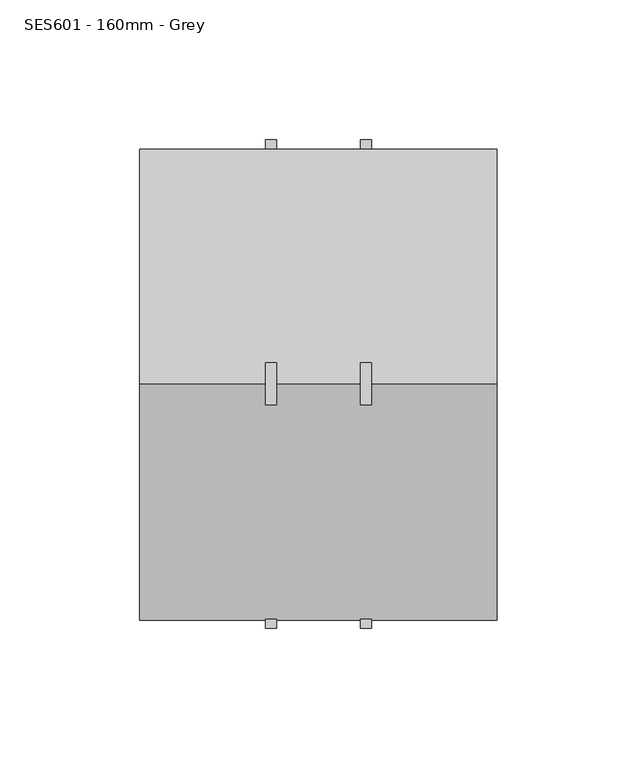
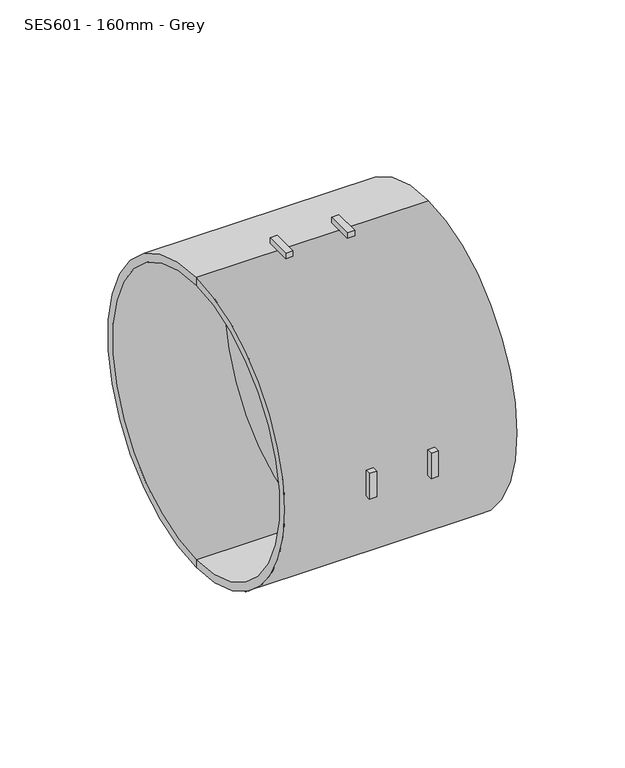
"""IFC4 building model written with IfcOpenShell, lengths in millimetres: pipe fitting geometry, MarleyPlumbingAndDrainage_PipeFitting_DoubleSolventCoupling : SES601 - 160mm - Grey."""

from ifc_helpers import new_model, si_unit, point, frame, origin, origin_2d, place, context, project, spatial, polyline, circle_curve, trimmed, segment, composite_curve, outline, extrude, source, transform, mapped, element, save
from ifc_brep_helpers import plane_surface, cylinder_surface, revolved_surface, advanced_brep


def ses601_160mm_grey_66289dab(model_context):
    return source(origin(), model_context, "Body", "SolidModel", [
        extrude(outline(composite_curve([segment(polyline([(-7.5, 84.1665017), (-7.5, 87.3787159)]), True, "CONTINUOUS"), segment(trimmed(circle_curve(origin_2d(), 87.7), [point((-7.5, 87.3787159))], [point((7.5, 87.3787159))], False, "CARTESIAN"), True, "CONTINUOUS"), segment(polyline([(7.5, 87.3787159), (7.5, 84.1665017)]), True, "CONTINUOUS"), segment(trimmed(circle_curve(origin_2d(), 84.5), [point((7.5, 84.1665017))], [point((-7.5, 84.1665017))], True, "CARTESIAN"), True, "CONTINUOUS")], self_intersect=False)), frame((-33.8253818, 0.0, 0.0), z_axis=(1.0, 0.0, 0.0), x_axis=(0.0, 1.0, 0.0)), (0.0, 0.0, 1.0), 4.0),
        extrude(outline(composite_curve([segment(polyline([(7.5, -84.1665017), (7.5, -87.3787159)]), True, "CONTINUOUS"), segment(trimmed(circle_curve(origin_2d(), 87.7), [point((7.5, -87.3787159))], [point((-7.5, -87.3787159))], False, "CARTESIAN"), True, "CONTINUOUS"), segment(polyline([(-7.5, -87.3787159), (-7.5, -84.1665017)]), True, "CONTINUOUS"), segment(trimmed(circle_curve(origin_2d(), 84.5), [point((-7.5, -84.1665017))], [point((7.5, -84.1665017))], True, "CARTESIAN"), True, "CONTINUOUS")], self_intersect=False)), frame((-33.8253818, 0.0, 0.0), z_axis=(1.0, 0.0, 0.0), x_axis=(0.0, 1.0, 0.0)), (0.0, 0.0, 1.0), 4.0),
        extrude(outline(composite_curve([segment(polyline([(84.1665017, 7.5), (87.3787159, 7.5)]), True, "CONTINUOUS"), segment(trimmed(circle_curve(origin_2d(), 87.7), [point((87.3787159, 7.5))], [point((87.3787159, -7.5))], False, "CARTESIAN"), True, "CONTINUOUS"), segment(polyline([(87.3787159, -7.5), (84.1665017, -7.5)]), True, "CONTINUOUS"), segment(trimmed(circle_curve(origin_2d(), 84.5), [point((84.1665017, -7.5))], [point((84.1665017, 7.5))], True, "CARTESIAN"), True, "CONTINUOUS")], self_intersect=False)), frame((-33.8253818, 0.0, 0.0), z_axis=(1.0, 0.0, 0.0), x_axis=(0.0, 1.0, 0.0)), (0.0, 0.0, 1.0), 4.0),
        extrude(outline(composite_curve([segment(polyline([(-84.1665017, -7.5), (-87.3787159, -7.5)]), True, "CONTINUOUS"), segment(trimmed(circle_curve(origin_2d(), 87.7), [point((-87.3787159, -7.5))], [point((-87.3787159, 7.5))], False, "CARTESIAN"), True, "CONTINUOUS"), segment(polyline([(-87.3787159, 7.5), (-84.1665017, 7.5)]), True, "CONTINUOUS"), segment(trimmed(circle_curve(origin_2d(), 84.5), [point((-84.1665017, 7.5))], [point((-84.1665017, -7.5))], True, "CARTESIAN"), True, "CONTINUOUS")], self_intersect=False)), frame((-33.8253818, 0.0, 0.0), z_axis=(1.0, 0.0, 0.0), x_axis=(0.0, 1.0, 0.0)), (0.0, 0.0, 1.0), 4.0),
        extrude(outline(composite_curve([segment(trimmed(circle_curve(origin_2d(), 84.5), [point((7.5, 84.1665017))], [point((-7.5, 84.1665017))], True, "CARTESIAN"), True, "CONTINUOUS"), segment(polyline([(-7.5, 84.1665017), (-7.5, 87.3787159)]), True, "CONTINUOUS"), segment(trimmed(circle_curve(origin_2d(), 87.7), [point((-7.5, 87.3787159))], [point((7.5, 87.3787159))], False, "CARTESIAN"), True, "CONTINUOUS"), segment(polyline([(7.5, 87.3787159), (7.5, 84.1665017)]), True, "CONTINUOUS")], self_intersect=False)), frame((0.1746182, 0.0, 0.0), z_axis=(1.0, 0.0, 0.0), x_axis=(0.0, 1.0, 0.0)), (0.0, 0.0, 1.0), 4.0),
        extrude(outline(composite_curve([segment(polyline([(7.5, -84.1665017), (7.5, -87.3787159)]), True, "CONTINUOUS"), segment(trimmed(circle_curve(origin_2d(), 87.7), [point((7.5, -87.3787159))], [point((-7.5, -87.3787159))], False, "CARTESIAN"), True, "CONTINUOUS"), segment(polyline([(-7.5, -87.3787159), (-7.5, -84.1665017)]), True, "CONTINUOUS"), segment(trimmed(circle_curve(origin_2d(), 84.5), [point((-7.5, -84.1665017))], [point((7.5, -84.1665017))], True, "CARTESIAN"), True, "CONTINUOUS")], self_intersect=False)), frame((0.1746182, 0.0, 0.0), z_axis=(1.0, 0.0, 0.0), x_axis=(0.0, 1.0, 0.0)), (0.0, 0.0, 1.0), 4.0),
        extrude(outline(composite_curve([segment(trimmed(circle_curve(origin_2d(), 84.5), [point((-84.1665017, 7.5))], [point((-84.1665017, -7.5))], True, "CARTESIAN"), True, "CONTINUOUS"), segment(polyline([(-84.1665017, -7.5), (-87.3787159, -7.5)]), True, "CONTINUOUS"), segment(trimmed(circle_curve(origin_2d(), 87.7), [point((-87.3787159, -7.5))], [point((-87.3787159, 7.5))], False, "CARTESIAN"), True, "CONTINUOUS"), segment(polyline([(-87.3787159, 7.5), (-84.1665017, 7.5)]), True, "CONTINUOUS")], self_intersect=False)), frame((0.1746182, 0.0, 0.0), z_axis=(1.0, 0.0, 0.0), x_axis=(0.0, 1.0, 0.0)), (0.0, 0.0, 1.0), 4.0),
        extrude(outline(composite_curve([segment(trimmed(circle_curve(origin_2d(), 87.7), [point((87.3787159, 7.5))], [point((87.3787159, -7.5))], False, "CARTESIAN"), True, "CONTINUOUS"), segment(polyline([(87.3787159, -7.5), (84.1665017, -7.5)]), True, "CONTINUOUS"), segment(trimmed(circle_curve(origin_2d(), 84.5), [point((84.1665017, -7.5))], [point((84.1665017, 7.5))], True, "CARTESIAN"), True, "CONTINUOUS"), segment(polyline([(84.1665017, 7.5), (87.3787159, 7.5)]), True, "CONTINUOUS")], self_intersect=False)), frame((0.1746182, 0.0, 0.0), z_axis=(1.0, 0.0, 0.0), x_axis=(0.0, 1.0, 0.0)), (0.0, 0.0, 1.0), 4.0),
        advanced_brep(
        [(-78.8253818, 0.0, -84.5), (-78.8253818, 0.0, 84.5), (49.1746182, 0.0, 84.5), (49.1746182, 0.0, -84.5), (49.1746182, 0.0, -80.0), (49.1746182, 0.0, 80.0), (-12.5753818, 0.0, 80.0), (-12.5753818, 0.0, -80.0), (-12.5753818, 0.0, 0.0), (-78.8253818, 0.0, -80.0), (-78.8253818, 0.0, 80.0), (-17.0753818, 0.0, -80.0), (-17.0753818, 0.0, 80.0), (-17.0753818, 0.0, 0.0)],
        [
            (0, 1, circle_curve(frame((-78.8253818, 0.0, 0.0), z_axis=(1.0, 0.0, 0.0), x_axis=(0.0, 0.0, 1.0)), 84.5)),
            (1, 2),
            (2, 3, circle_curve(frame((49.1746182, 0.0, 0.0), z_axis=(-1.0, 0.0, 0.0), x_axis=(0.0, 0.0, 1.0)), 84.5)),
            (3, 0),
            (1, 0, circle_curve(frame((-78.8253818, 0.0, 0.0), z_axis=(1.0, 0.0, 0.0), x_axis=(0.0, 0.0, 1.0)), 84.5)),
            (3, 2, circle_curve(frame((49.1746182, 0.0, 0.0), z_axis=(-1.0, 0.0, 0.0), x_axis=(0.0, 0.0, 1.0)), 84.5)),
            (4, 5, circle_curve(frame((49.1746182, 0.0, 0.0), z_axis=(1.0, 0.0, 0.0), x_axis=(0.0, 0.0, 1.0)), 80.0)),
            (5, 6),
            (6, 7, circle_curve(frame((-12.5753818, 0.0, 0.0), z_axis=(-1.0, 0.0, 0.0), x_axis=(0.0, 0.0, 1.0)), 80.0)),
            (7, 4),
            (5, 4, circle_curve(frame((49.1746182, 0.0, 0.0), z_axis=(1.0, 0.0, 0.0), x_axis=(0.0, 0.0, 1.0)), 80.0)),
            (7, 6, circle_curve(frame((-12.5753818, 0.0, 0.0), z_axis=(-1.0, 0.0, 0.0), x_axis=(0.0, 0.0, 1.0)), 80.0)),
            (2, 5),
            (4, 3),
            (6, 8),
            (8, 7),
            (9, 10, circle_curve(frame((-78.8253818, 0.0, 0.0), z_axis=(1.0, 0.0, 0.0), x_axis=(0.0, 0.0, 1.0)), 80.0)),
            (10, 1),
            (0, 9),
            (10, 9, circle_curve(frame((-78.8253818, 0.0, 0.0), z_axis=(1.0, 0.0, 0.0), x_axis=(0.0, 0.0, 1.0)), 80.0)),
            (11, 12, circle_curve(frame((-17.0753818, 0.0, 0.0), z_axis=(1.0, 0.0, 0.0), x_axis=(0.0, 0.0, 1.0)), 80.0)),
            (12, 10),
            (9, 11),
            (12, 11, circle_curve(frame((-17.0753818, 0.0, 0.0), z_axis=(1.0, 0.0, 0.0), x_axis=(0.0, 0.0, 1.0)), 80.0)),
            (13, 12),
            (11, 13),
        ],
        [
            cylinder_surface(frame((-1216.7325039, 0.0, 0.0), z_axis=(-1.0, 0.0, 0.0), x_axis=(0.0, 0.0, 1.0)), 84.5),
            revolved_surface(polyline([(-12.57538180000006, 0.0, 80.0), (49.17461819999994, 0.0, 80.0)]), (-1216.7325039, 0.0, 0.0), (-1.0, 0.0, 0.0)),
            plane_surface(frame((49.1746182, 0.0, 0.0), z_axis=(1.0, 0.0, 0.0), x_axis=(0.0, 0.0, 1.0))),
            plane_surface(frame((-12.5753818, 0.0, 0.0), z_axis=(1.0, 0.0, 0.0), x_axis=(0.0, 0.0, 1.0))),
            plane_surface(frame((-78.8253818, 0.0, 0.0), z_axis=(-1.0, 0.0, 0.0), x_axis=(0.0, 0.0, 1.0))),
            revolved_surface(polyline([(-78.82538180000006, 0.0, 80.0), (-17.07538180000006, 0.0, 80.0)]), (-1216.7325039, 0.0, 0.0), (-1.0, 0.0, 0.0)),
            plane_surface(frame((-17.0753818, 0.0, 0.0), z_axis=(-1.0, 0.0, 0.0), x_axis=(0.0, 0.0, 1.0))),
        ],
        [
            (0, [[1, 2, 3, 4]]),
            (0, [[5, -4, 6, -2]]),
            (1, [[7, 8, 9, 10]]),
            (1, [[11, -10, 12, -8]]),
            (2, [[-3, 13, -7, 14]]),
            (2, [[-6, -14, -11, -13]]),
            (3, [[-9, 15, 16]]),
            (3, [[-12, -16, -15]]),
            (4, [[17, 18, -1, 19]]),
            (4, [[20, -19, -5, -18]]),
            (5, [[21, 22, -17, 23]]),
            (5, [[24, -23, -20, -22]]),
            (6, [[25, -21, 26]]),
            (6, [[-26, -24, -25]]),
        ],
    ),
    ])


if __name__ == "__main__":
    model = new_model("IFC4")
    model_context = context("Model", 3, world=origin())
    ifc_project = project(units=[si_unit("LENGTHUNIT", "METRE", prefix="MILLI")], contexts=[model_context])
    site = spatial("IfcSite", under=ifc_project)
    building = spatial("IfcBuilding", under=site)
    placement = place(None, origin())
    ses601_160mm_grey_shape = ses601_160mm_grey_66289dab(model_context)
    element("IfcPipeFitting", 1, ObjectType="MarleyPlumbingAndDrainage_PipeFitting_DoubleSolventCoupling : SES601 - 160mm - Grey", at=placement, inside=building, context=model_context, shape_type="MappedRepresentation", body=[
        mapped(ses601_160mm_grey_shape, transform((0.0, 0.0, 0.0), x_axis=(1.0, 0.0, 0.0), y_axis=(0.0, 1.0, 0.0), z_axis=(0.0, 0.0, 1.0))),
    ])
    save(model, "model.ifc")
